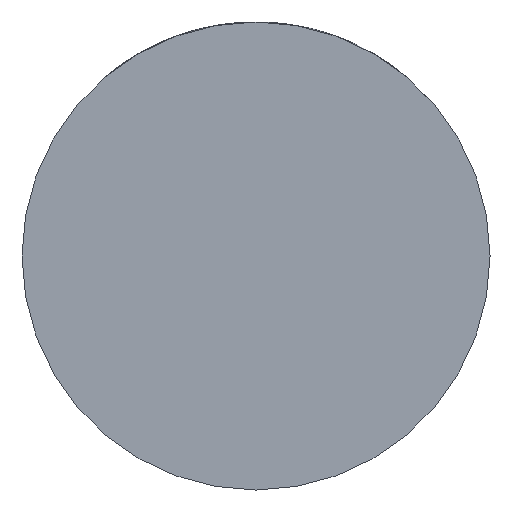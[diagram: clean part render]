
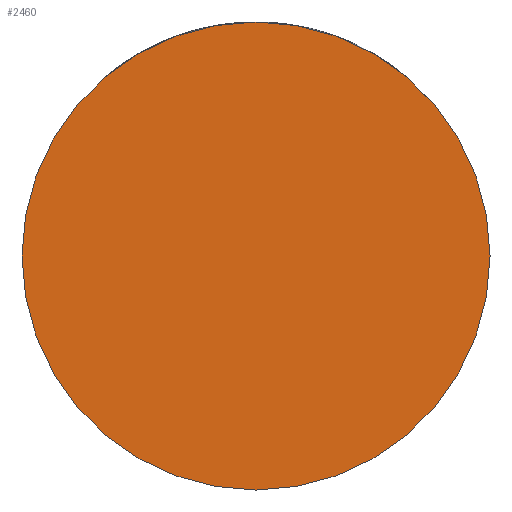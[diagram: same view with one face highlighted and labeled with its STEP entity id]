
A CAD part, front view. The second image highlights one B-rep face of the part: STEP entity #2460.
In plain terms, the highlighted planar face has unit normal (0, -1, 0).
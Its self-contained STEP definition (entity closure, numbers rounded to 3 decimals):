
#37 = ORIENTED_EDGE ( 'NONE', *, *, #1134, .T. ) ;
#232 = CIRCLE ( 'NONE', #2665, 29.5 ) ;
#250 = VERTEX_POINT ( 'NONE', #1893 ) ;
#501 = DIRECTION ( 'NONE',  ( 1., 0., 0. ) ) ;
#680 = EDGE_CURVE ( 'NONE', #2789, #250, #232, .T. ) ;
#894 = CIRCLE ( 'NONE', #3095, 29.5 ) ;
#1062 = CARTESIAN_POINT ( 'NONE',  ( 0., -33., 0. ) ) ;
#1134 = EDGE_CURVE ( 'NONE', #250, #2789, #894, .T. ) ;
#1893 = CARTESIAN_POINT ( 'NONE',  ( 29.5, -33., 0. ) ) ;
#2028 = DIRECTION ( 'NONE',  ( 0., -1., 0. ) ) ;
#2048 = DIRECTION ( 'NONE',  ( 1., 0., 0. ) ) ;
#2205 = FACE_OUTER_BOUND ( 'NONE', #3067, .T. ) ;
#2460 = ADVANCED_FACE ( 'NONE', ( #2205 ), #3367, .T. ) ;
#2464 = DIRECTION ( 'NONE',  ( 0., -1., 0. ) ) ;
#2466 = ORIENTED_EDGE ( 'NONE', *, *, #680, .T. ) ;
#2533 = CARTESIAN_POINT ( 'NONE',  ( -29.5, -33., 0. ) ) ;
#2665 = AXIS2_PLACEMENT_3D ( 'NONE', #1062, #2464, #3861 ) ;
#2789 = VERTEX_POINT ( 'NONE', #2533 ) ;
#3067 = EDGE_LOOP ( 'NONE', ( #2466, #37 ) ) ;
#3095 = AXIS2_PLACEMENT_3D ( 'NONE', #4461, #2028, #2048 ) ;
#3233 = CARTESIAN_POINT ( 'NONE',  ( 0., -33., 0. ) ) ;
#3367 = PLANE ( 'NONE',  #3520 ) ;
#3520 = AXIS2_PLACEMENT_3D ( 'NONE', #3233, #3949, #501 ) ;
#3861 = DIRECTION ( 'NONE',  ( 1., 0., 0. ) ) ;
#3949 = DIRECTION ( 'NONE',  ( 0., -1., 0. ) ) ;
#4461 = CARTESIAN_POINT ( 'NONE',  ( 0., -33., 0. ) ) ;
